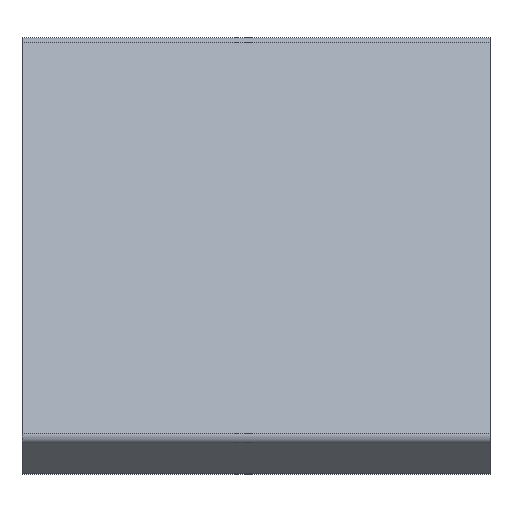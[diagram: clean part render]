
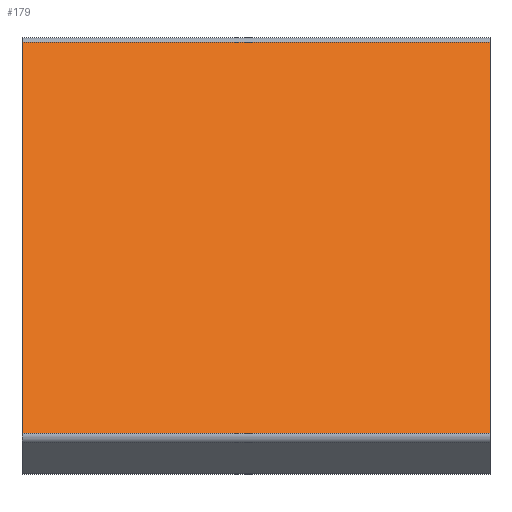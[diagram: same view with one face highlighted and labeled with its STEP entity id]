
A CAD part, front view. The second image highlights one B-rep face of the part: STEP entity #179.
In plain terms, the highlighted planar face has unit normal (0, -0.911, 0.412).
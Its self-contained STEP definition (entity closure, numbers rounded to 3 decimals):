
#167 = VERTEX_POINT( '', #389 );
#179 = ADVANCED_FACE( '', ( #402 ), #403, .T. );
#191 = EDGE_CURVE( '', #207, #291, #415, .T. );
#207 = VERTEX_POINT( '', #432 );
#261 = VERTEX_POINT( '', #497 );
#265 = EDGE_CURVE( '', #261, #291, #501, .T. );
#267 = EDGE_CURVE( '', #167, #207, #503, .T. );
#291 = VERTEX_POINT( '', #530 );
#293 = EDGE_CURVE( '', #167, #261, #532, .T. );
#389 = CARTESIAN_POINT( '', ( 46., -10.265, 11.409 ) );
#402 = FACE_OUTER_BOUND( '', #649, .T. );
#403 = PLANE( '', #650 );
#415 = LINE( '', #667, #668 );
#432 = CARTESIAN_POINT( '', ( 46., -32.913, -38.741 ) );
#497 = CARTESIAN_POINT( '', ( -14., -10.265, 11.409 ) );
#501 = LINE( '', #778, #779 );
#503 = LINE( '', #782, #783 );
#530 = CARTESIAN_POINT( '', ( -14., -32.913, -38.741 ) );
#532 = LINE( '', #824, #825 );
#649 = EDGE_LOOP( '', ( #937, #938, #939, #940 ) );
#650 = AXIS2_PLACEMENT_3D( '', #941, #942, #943 );
#667 = CARTESIAN_POINT( '', ( 46., -32.913, -38.741 ) );
#668 = VECTOR( '', #951, 1. );
#778 = CARTESIAN_POINT( '', ( -14., -10.265, 11.409 ) );
#779 = VECTOR( '', #1069, 1. );
#782 = CARTESIAN_POINT( '', ( 46., -10.265, 11.409 ) );
#783 = VECTOR( '', #1070, 1. );
#824 = CARTESIAN_POINT( '', ( 46., -10.265, 11.409 ) );
#825 = VECTOR( '', #1108, 1. );
#937 = ORIENTED_EDGE( '', *, *, #265, .T. );
#938 = ORIENTED_EDGE( '', *, *, #191, .F. );
#939 = ORIENTED_EDGE( '', *, *, #267, .F. );
#940 = ORIENTED_EDGE( '', *, *, #293, .T. );
#941 = CARTESIAN_POINT( '', ( 46., -10.265, 11.409 ) );
#942 = DIRECTION( '', ( 0., -0.911, 0.412 ) );
#943 = DIRECTION( '', ( 0., 0.412, 0.911 ) );
#951 = DIRECTION( '', ( -1., 0., 0. ) );
#1069 = DIRECTION( '', ( 0., -0.412, -0.911 ) );
#1070 = DIRECTION( '', ( 0., -0.412, -0.911 ) );
#1108 = DIRECTION( '', ( -1., 0., 0. ) );
